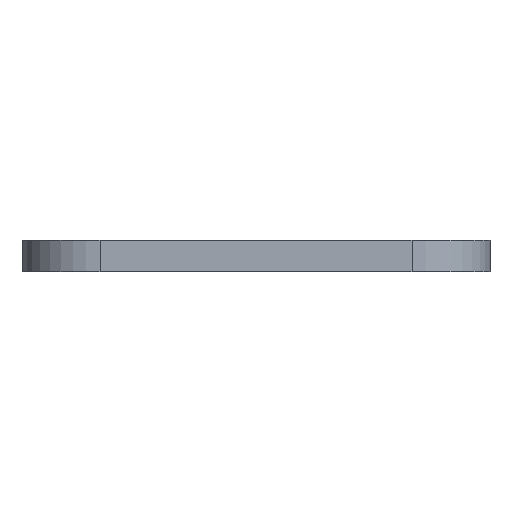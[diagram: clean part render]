
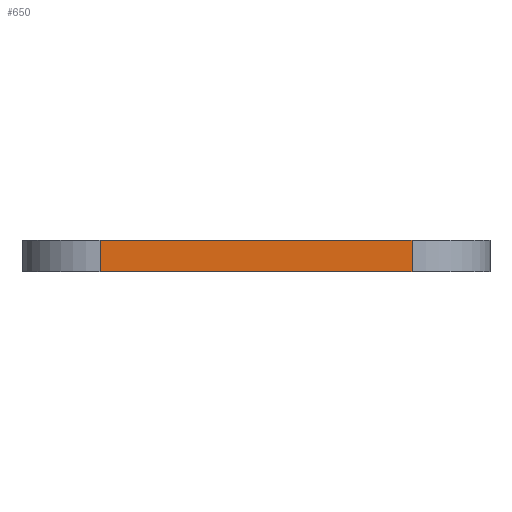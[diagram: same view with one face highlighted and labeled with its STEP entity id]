
A CAD part, front view. The second image highlights one B-rep face of the part: STEP entity #650.
In plain terms, the highlighted planar face has unit normal (0, -1, 0).
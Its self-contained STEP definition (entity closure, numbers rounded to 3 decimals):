
#623=AXIS2_PLACEMENT_3D('Plane Axis2P3D',#620,#621,#622) ;
#594=CARTESIAN_POINT('Line Origine',(1438.999,-704.999,79.)) ;
#598=CARTESIAN_POINT('Vertex',(1438.999,-704.999,80.)) ;
#600=CARTESIAN_POINT('Vertex',(1438.999,-704.999,78.)) ;
#620=CARTESIAN_POINT('Axis2P3D Location',(1438.999,-704.999,80.5)) ;
#625=CARTESIAN_POINT('Line Origine',(1458.999,-704.999,79.)) ;
#629=CARTESIAN_POINT('Vertex',(1458.999,-704.999,80.)) ;
#631=CARTESIAN_POINT('Vertex',(1458.999,-704.999,78.)) ;
#634=CARTESIAN_POINT('Line Origine',(1448.999,-704.999,80.)) ;
#639=CARTESIAN_POINT('Line Origine',(1448.999,-704.999,78.)) ;
#595=DIRECTION('Vector Direction',(0.,0.,-1.)) ;
#621=DIRECTION('Axis2P3D Direction',(0.,1.,0.)) ;
#622=DIRECTION('Axis2P3D XDirection',(1.,0.,0.)) ;
#626=DIRECTION('Vector Direction',(0.,0.,-1.)) ;
#635=DIRECTION('Vector Direction',(1.,0.,0.)) ;
#640=DIRECTION('Vector Direction',(1.,0.,0.)) ;
#596=VECTOR('Line Direction',#595,1.) ;
#627=VECTOR('Line Direction',#626,1.) ;
#636=VECTOR('Line Direction',#635,1.) ;
#641=VECTOR('Line Direction',#640,1.) ;
#645=ORIENTED_EDGE('',*,*,#633,.F.) ;
#646=ORIENTED_EDGE('',*,*,#638,.T.) ;
#647=ORIENTED_EDGE('',*,*,#602,.T.) ;
#648=ORIENTED_EDGE('',*,*,#643,.F.) ;
#650=ADVANCED_FACE('680.2\\\X2\589E52A088655F3A677F\X0\',(#649),#624,.F.) ;
#602=EDGE_CURVE('',#599,#601,#597,.T.) ;
#633=EDGE_CURVE('',#630,#632,#628,.T.) ;
#638=EDGE_CURVE('',#630,#599,#637,.F.) ;
#643=EDGE_CURVE('',#632,#601,#642,.F.) ;
#644=EDGE_LOOP('',(#645,#646,#647,#648)) ;
#649=FACE_OUTER_BOUND('',#644,.T.) ;
#597=LINE('Line',#594,#596) ;
#628=LINE('Line',#625,#627) ;
#637=LINE('Line',#634,#636) ;
#642=LINE('Line',#639,#641) ;
#624=PLANE('Plane',#623) ;
#599=VERTEX_POINT('',#598) ;
#601=VERTEX_POINT('',#600) ;
#630=VERTEX_POINT('',#629) ;
#632=VERTEX_POINT('',#631) ;
